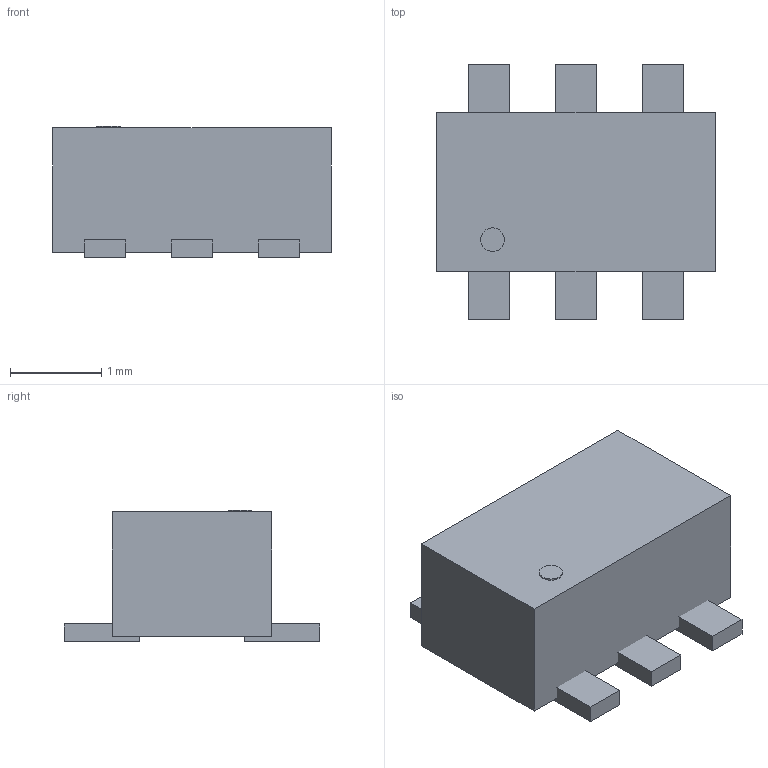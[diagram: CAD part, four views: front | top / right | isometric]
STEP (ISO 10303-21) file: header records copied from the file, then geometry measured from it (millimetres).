
FILE_DESCRIPTION(('FreeCAD Model'),'2;1');
FILE_NAME('Open CASCADE Shape Model','2026-09-23T12:07:02',('FreeCAD'),( 'FreeCAD'),'Open CASCADE STEP processor 7.8','FreeCAD','Unknown');
FILE_SCHEMA(('AUTOMOTIVE_DESIGN { 1 0 10303 214 1 1 1 1 }'));
Length unit declared in the file: millimetre
Products named in the file (1): Open CASCADE STEP translator 7.8 50
Bounding box: 3.05 x 2.8 x 1.44 mm (x, y, z)
Volume: 7.7 mm3; surface area: 31.4 mm2
Topology: 8 solids, 8 shells, 76 faces, 180 edges, 120 vertices
Faces by surface type: plane 76
Entity records: 2140 total; most frequent: CARTESIAN_POINT 377, ORIENTED_EDGE 360, DIRECTION 334, EDGE_CURVE 180, LINE 180, VECTOR 180, VERTEX_POINT 120, AXIS2_PLACEMENT_3D 77
